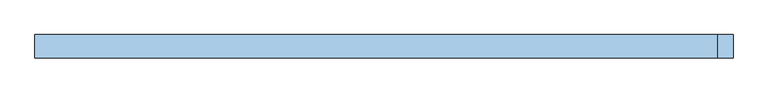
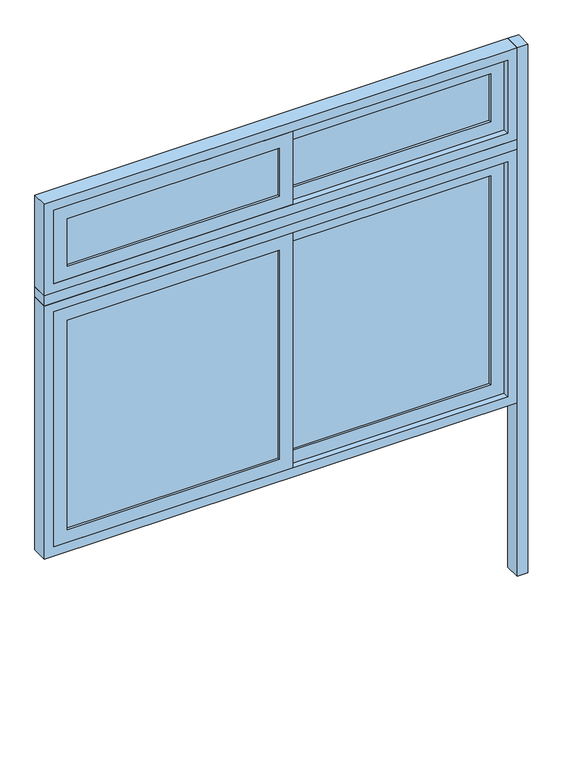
"""IFC4 building model written with IfcOpenShell, lengths in millimetres: window geometry, A4 Cerramiento aula Exterior_vidrios corredizos : A4 Cerramiento aula Exterior_vidrios corredizos."""

from ifc_helpers import new_model, si_unit, frame, origin, origin_with_axes, place, context, project, spatial, polyline, outline, extrude, source, transform, mapped, element, save


def window_4296f7cd(model_context):
    return source(origin(), model_context, "Body", "SweptSolid", [
        extrude(outline(polyline([(1125.0, -25.0), (1125.0, -100.0), (1075.0, -100.0), (1075.0, -25.0), (1125.0, -25.0)])), origin_with_axes(), (0.0, 0.0, 1.0), 2600.0),
        extrude(outline(polyline([(-31.5, -89.0), (-1017.0, -89.0), (-1017.0, -83.0), (-31.5, -83.0), (-31.5, -89.0)])), frame((0.0, 0.0, 2258.0), z_axis=(0.0, 0.0, 1.0), x_axis=(1.0, 0.0, 0.0)), (0.0, 0.0, 1.0), 234.0),
        extrude(outline(polyline([(-31.5, -89.0), (-1017.0, -89.0), (-1017.0, -83.0), (-31.5, -83.0), (-31.5, -89.0)])), frame((0.0, 0.0, 963.0), z_axis=(0.0, 0.0, 1.0), x_axis=(1.0, 0.0, 0.0)), (0.0, 0.0, 1.0), 1029.0),
        extrude(outline(polyline([(967.0, -61.0), (31.5, -61.0), (31.5, -55.0), (967.0, -55.0), (967.0, -61.0)])), frame((0.0, 0.0, 2258.0), z_axis=(0.0, 0.0, 1.0), x_axis=(1.0, 0.0, 0.0)), (0.0, 0.0, 1.0), 234.0),
        extrude(outline(polyline([(967.0, -61.0), (31.5, -61.0), (31.5, -55.0), (967.0, -55.0), (967.0, -61.0)])), frame((0.0, 0.0, 963.0), z_axis=(0.0, 0.0, 1.0), x_axis=(1.0, 0.0, 0.0)), (0.0, 0.0, 1.0), 1029.0),
        extrude(outline(polyline([(2555.0, -1080.0), (2195.0, -1080.0), (2195.0, 31.5), (2555.0, 31.5), (2555.0, -1080.0)]), holes=[polyline([(2258.0, -1017.0), (2492.0, -1017.0), (2492.0, -31.5), (2258.0, -31.5), (2258.0, -1017.0)])]), frame((0.0, -100.0, 0.0), z_axis=(0.0, 1.0, 0.0), x_axis=(0.0, 0.0, 1.0)), (0.0, 0.0, 1.0), 28.0),
        extrude(outline(polyline([(2055.0, -1080.0), (900.0, -1080.0), (900.0, 31.5), (2055.0, 31.5), (2055.0, -1080.0)]), holes=[polyline([(963.0, -1017.0), (1992.0, -1017.0), (1992.0, -31.5), (963.0, -31.5), (963.0, -1017.0)])]), frame((0.0, -100.0, 0.0), z_axis=(0.0, 1.0, 0.0), x_axis=(0.0, 0.0, 1.0)), (0.0, 0.0, 1.0), 28.0),
        extrude(outline(polyline([(2195.0, -31.5), (2195.0, 1030.0), (2555.0, 1030.0), (2555.0, -31.5), (2195.0, -31.5)]), holes=[polyline([(2492.0, 31.5), (2492.0, 967.0), (2258.0, 967.0), (2258.0, 31.5), (2492.0, 31.5)])]), frame((0.0, -72.0, 0.0), z_axis=(0.0, 1.0, 0.0), x_axis=(0.0, 0.0, 1.0)), (0.0, 0.0, 1.0), 28.0),
        extrude(outline(polyline([(900.0, -31.5), (900.0, 1030.0), (2055.0, 1030.0), (2055.0, -31.5), (900.0, -31.5)]), holes=[polyline([(1992.0, 31.5), (1992.0, 967.0), (963.0, 967.0), (963.0, 31.5), (1992.0, 31.5)])]), frame((0.0, -72.0, 0.0), z_axis=(0.0, 1.0, 0.0), x_axis=(0.0, 0.0, 1.0)), (0.0, 0.0, 1.0), 28.0),
        extrude(outline(polyline([(2600.0, -1125.0), (2150.0, -1125.0), (2150.0, 1075.0), (2600.0, 1075.0), (2600.0, -1125.0)]), holes=[polyline([(2555.0, -1080.0), (2555.0, 1030.0), (2195.0, 1030.0), (2195.0, -1080.0), (2555.0, -1080.0)])]), frame((0.0, -100.0, 0.0), z_axis=(0.0, 1.0, 0.0), x_axis=(0.0, 0.0, 1.0)), (0.0, 0.0, 1.0), 75.0),
        extrude(outline(polyline([(2100.0, -1125.0), (855.0, -1125.0), (855.0, 1075.0), (2100.0, 1075.0), (2100.0, -1125.0)]), holes=[polyline([(2055.0, -1080.0), (2055.0, 1030.0), (900.0, 1030.0), (900.0, -1080.0), (2055.0, -1080.0)])]), frame((0.0, -100.0, 0.0), z_axis=(0.0, 1.0, 0.0), x_axis=(0.0, 0.0, 1.0)), (0.0, 0.0, 1.0), 75.0),
        extrude(outline(polyline([(1075.0, -100.0), (-1125.0, -100.0), (-1125.0, -25.0), (1075.0, -25.0), (1075.0, -100.0)])), frame((0.0, 0.0, 2100.0), z_axis=(0.0, 0.0, 1.0), x_axis=(1.0, 0.0, 0.0)), (0.0, 0.0, 1.0), 50.0),
    ])


if __name__ == "__main__":
    model = new_model("IFC4")
    model_context = context("Model", 3, world=origin())
    ifc_project = project(units=[si_unit("LENGTHUNIT", "METRE", prefix="MILLI")], contexts=[model_context])
    site = spatial("IfcSite", under=ifc_project)
    building = spatial("IfcBuilding", under=site)
    placement = place(None, origin())
    window_shape = window_4296f7cd(model_context)
    element("IfcWindow", 1, ObjectType="A4 Cerramiento aula Exterior_vidrios corredizos : A4 Cerramiento aula Exterior_vidrios corredizos", at=placement, inside=building, context=model_context, shape_type="MappedRepresentation", body=[
        mapped(window_shape, transform((0.0, 0.0, 0.0), x_axis=(1.0, 0.0, 0.0), y_axis=(0.0, 1.0, 0.0), z_axis=(0.0, 0.0, 1.0))),
    ])
    save(model, "model.ifc")
